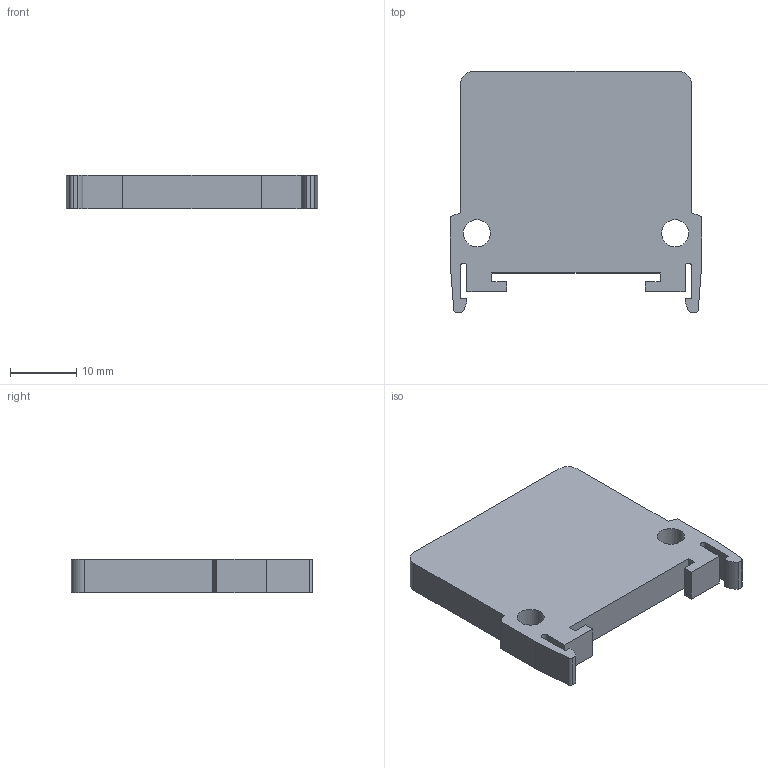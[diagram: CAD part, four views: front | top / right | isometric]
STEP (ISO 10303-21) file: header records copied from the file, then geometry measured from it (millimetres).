
FILE_DESCRIPTION(/* description */ (''),/* implementation_level */ '2;1');
FILE_NAME(/* name */ 'C:\Users\USERCADG105.FUJIDK\Desktop\23218-(TXE-2 Eﾌﾟﾚｰﾄ)HP 3D.stp',/* time_stamp */ '2024-12-10T14:39:38+09:00',/* author */ ('usercadg105'),/* organization */ (''),/* preprocessor_version */ 'ST-DEVELOPER v19',/* originating_system */ 'Autodesk Inventor 2023',/* authorisation */ '');
FILE_SCHEMA (('CONFIG_CONTROL_DESIGN'));
Length unit declared in the file: millimetre
Products named in the file (1): 23218-(TXE-2 Eﾌﾟﾚｰﾄ)HP 3D
Bounding box: 38 x 36.5 x 5 mm (x, y, z)
Volume: 5539.9 mm3; surface area: 3269.8 mm2
Topology: 1 solids, 1 shells, 38 faces, 108 edges, 72 vertices
Faces by surface type: plane 28, cylinder 10
Full cylindrical faces by diameter (mm): 4.1 x2
Entity records: 1283 total; most frequent: CARTESIAN_POINT 219, ORIENTED_EDGE 216, DIRECTION 206, EDGE_CURVE 108, LINE 88, VECTOR 88, VERTEX_POINT 72, AXIS2_PLACEMENT_3D 59
